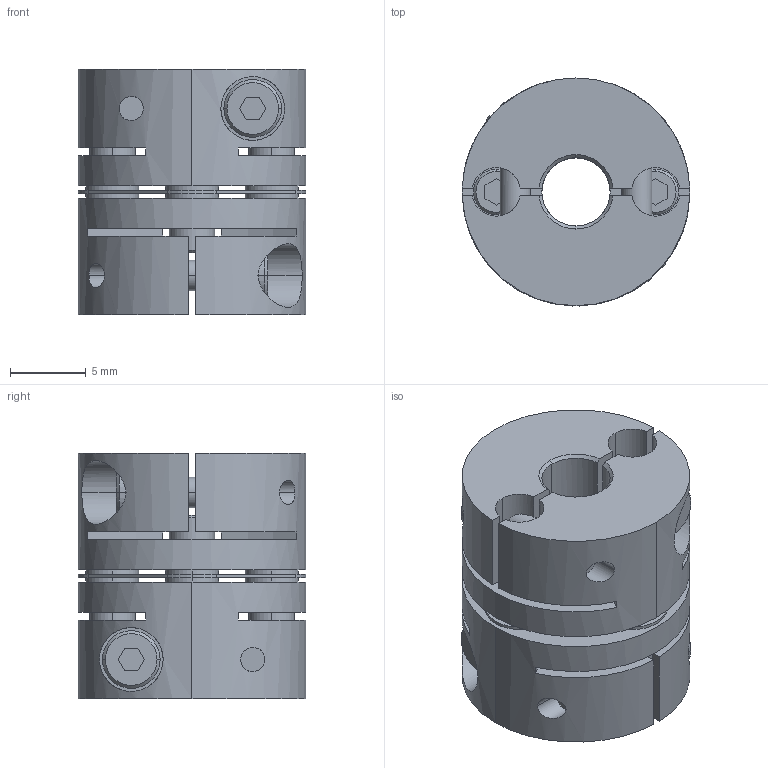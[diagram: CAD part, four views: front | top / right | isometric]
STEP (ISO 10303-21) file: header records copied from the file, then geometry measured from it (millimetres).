
FILE_DESCRIPTION((''),'2;1');
FILE_NAME('LAS-15C-4.5×4.5.stp','2016-04-21T12:28:58',(''),(''),'AutoCAD STEP 2000i','AutoCAD 2000i',', , ');
FILE_SCHEMA(('CONFIG_CONTROL_DESIGN'));
Length unit declared in the file: millimetre
Products named in the file (5): LAS-15C-3×3; 忣兜1; LA-1502-D03-1; LA-1502-D03; LAS15-ITA
Assembly tree (4 placements, depth 2):
  LAS-15C-3×3
    忣兜1
    LA-1502-D03-1
    LA-1502-D03
    LAS15-ITA
Bounding box: 15 x 15 x 16.2 mm (x, y, z)
Volume: 2168.1 mm3; surface area: 2695.5 mm2
Topology: 1 solids, 1 shells, 236 faces, 624 edges, 408 vertices
Faces by surface type: plane 112, cylinder 96, cone 28
Entity records: 8155 total; most frequent: CARTESIAN_POINT 1961, DIRECTION 1302, ORIENTED_EDGE 1248, EDGE_CURVE 624, AXIS2_PLACEMENT_3D 477, VERTEX_POINT 408, VECTOR 348, LINE 348
